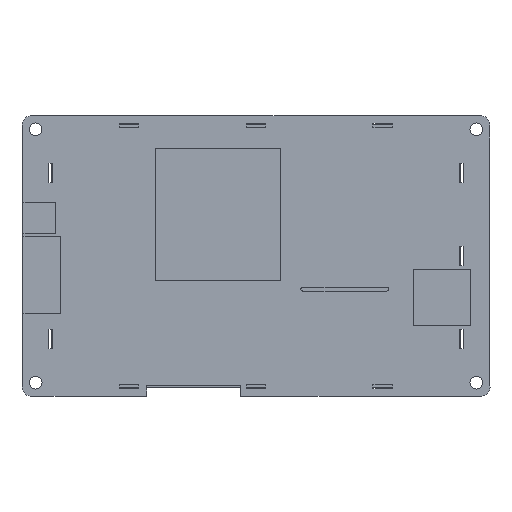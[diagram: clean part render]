
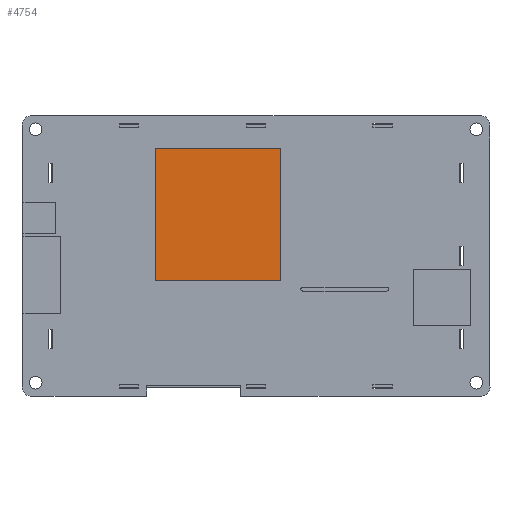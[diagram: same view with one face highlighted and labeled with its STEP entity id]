
A CAD part, top view. The second image highlights one B-rep face of the part: STEP entity #4754.
In plain terms, the highlighted planar face has unit normal (0, 0, 1).
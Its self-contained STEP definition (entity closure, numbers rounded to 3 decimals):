
#2342=DIRECTION('',(0.,-1.,0.));
#2343=VECTOR('',#2342,34.417);
#2344=CARTESIAN_POINT('',(1213.337,829.043,3.));
#2345=LINE('',#2344,#2343);
#2349=DIRECTION('',(-1.,0.,0.));
#2350=VECTOR('',#2349,32.766);
#2351=CARTESIAN_POINT('',(1246.103,829.043,3.));
#2352=LINE('',#2351,#2350);
#2356=DIRECTION('',(0.,1.,0.));
#2357=VECTOR('',#2356,34.417);
#2358=CARTESIAN_POINT('',(1246.103,794.626,3.));
#2359=LINE('',#2358,#2357);
#2363=DIRECTION('',(1.,0.,0.));
#2364=VECTOR('',#2363,32.766);
#2365=CARTESIAN_POINT('',(1213.337,794.626,3.));
#2366=LINE('',#2365,#2364);
#2638=CARTESIAN_POINT('',(1213.337,829.043,3.));
#2639=CARTESIAN_POINT('',(1213.337,794.626,3.));
#2640=VERTEX_POINT('',#2638);
#2641=VERTEX_POINT('',#2639);
#2642=CARTESIAN_POINT('',(1246.103,794.626,3.));
#2643=VERTEX_POINT('',#2642);
#2644=CARTESIAN_POINT('',(1246.103,829.043,3.));
#2645=VERTEX_POINT('',#2644);
#4743=CARTESIAN_POINT('',(1235.689,764.526,3.));
#4744=DIRECTION('',(0.,0.,1.));
#4745=DIRECTION('',(1.,0.,0.));
#4746=AXIS2_PLACEMENT_3D('',#4743,#4744,#4745);
#4747=PLANE('',#4746);
#4748=ORIENTED_EDGE('',*,*,#4695,.F.);
#4749=ORIENTED_EDGE('',*,*,#4710,.F.);
#4750=ORIENTED_EDGE('',*,*,#4724,.F.);
#4751=ORIENTED_EDGE('',*,*,#4737,.F.);
#4752=EDGE_LOOP('',(#4748,#4749,#4750,#4751));
#4753=FACE_OUTER_BOUND('',#4752,.F.);
#4695=EDGE_CURVE('',#2640,#2641,#2345,.T.);
#4710=EDGE_CURVE('',#2645,#2640,#2352,.T.);
#4724=EDGE_CURVE('',#2643,#2645,#2359,.T.);
#4737=EDGE_CURVE('',#2641,#2643,#2366,.T.);
#4754=ADVANCED_FACE('',(#4753),#4747,.T.);
